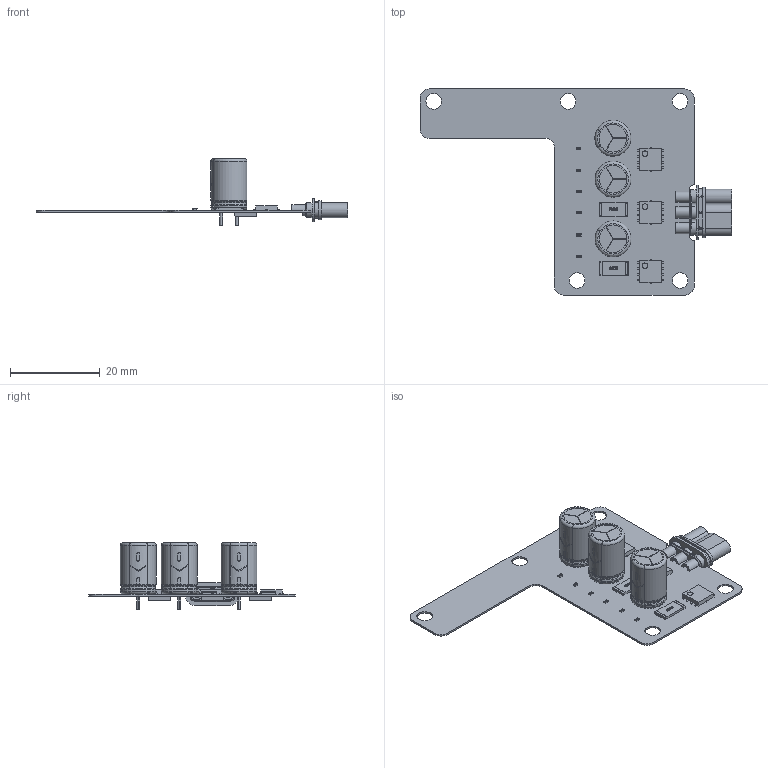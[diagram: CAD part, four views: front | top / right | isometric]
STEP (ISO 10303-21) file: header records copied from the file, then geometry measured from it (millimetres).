
FILE_DESCRIPTION(/* description */ (''),/* implementation_level */ '2;1');
FILE_NAME(/* name */ 'C:/Users/Szasd/Pictures/Saved Pictures/FocDriver v4.step',/* time_stamp */ '2022-03-13T21:55:16+08:00',/* author */ (''),/* organization */ (''),/* preprocessor_version */ 'ST-DEVELOPER v18.1',/* originating_system */ 'Autodesk Translation Framework v10.13.0.1454',/* authorisation */ '');
FILE_SCHEMA (('AUTOMOTIVE_DESIGN { 1 0 10303 214 3 1 1 }'));
Length unit declared in the file: millimetre
Products named in the file (1): FocDriver
Bounding box: 69.63 x 46 x 14.91 mm (x, y, z)
Volume: 1033.4 mm3; surface area: 6556.2 mm2
Topology: 39 solids, 1002 shells, 4132 faces, 14559 edges, 11473 vertices
Faces by surface type: plane 3286, bspline 593, cylinder 196, torus 45, cone 12
Full cylindrical faces by diameter (mm): 0.9 x6, 1.25 x6, 1.4 x1, 2 x1, 2.4 x4, 2.5 x4, 3.5 x5
Entity records: 188612 total; most frequent: CARTESIAN_POINT 67150, ORIENTED_EDGE 21542, DIRECTION 21524, EDGE_CURVE 14549, LINE 11894, VECTOR 11894, VERTEX_POINT 11473, AXIS2_PLACEMENT_3D 4815
